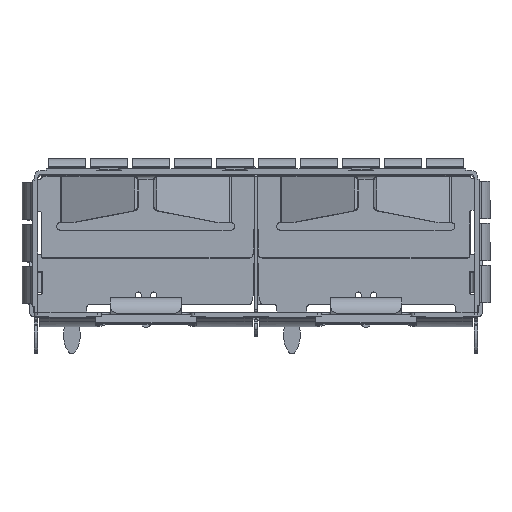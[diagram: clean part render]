
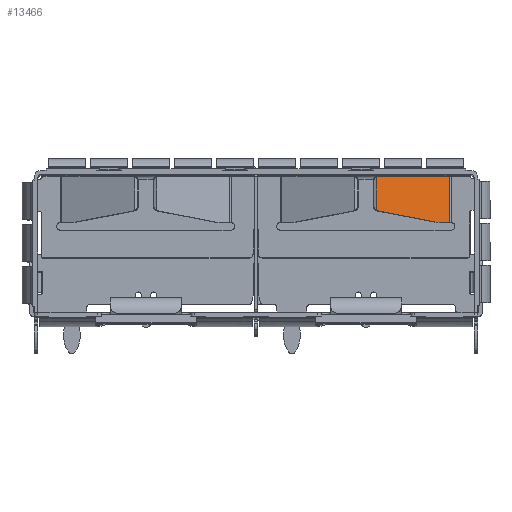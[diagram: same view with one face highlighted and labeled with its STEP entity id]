
A CAD part, top view. The second image highlights one B-rep face of the part: STEP entity #13466.
In plain terms, the highlighted planar face has unit normal (0.375, 0, 0.927) as drawn and (0.375, -0.927, 0) by its records, which use the part's own axes.
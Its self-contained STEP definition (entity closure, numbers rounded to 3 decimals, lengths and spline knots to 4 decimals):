
#1290 = CARTESIAN_POINT ( 'NONE',  ( 11.9804, 47.906, -3.3 ) ) ;
#1608 = AXIS2_PLACEMENT_3D ( 'NONE', #39090, #22542, #51593 ) ;
#1616 = ORIENTED_EDGE ( 'NONE', *, *, #26978, .F. ) ;
#2102 = EDGE_CURVE ( 'NONE', #48046, #51777, #40041, .T. ) ;
#3429 = CARTESIAN_POINT ( 'NONE',  ( 7.8312, 46.2296, -2.5234 ) ) ;
#5209 = ORIENTED_EDGE ( 'NONE', *, *, #14154, .F. ) ;
#5345 = VECTOR ( 'NONE', #18422, 1000. ) ;
#5437 = EDGE_CURVE ( 'NONE', #9344, #49743, #39116, .T. ) ;
#5455 = ORIENTED_EDGE ( 'NONE', *, *, #2102, .F. ) ;
#5796 = CARTESIAN_POINT ( 'NONE',  ( 7.9703, 46.2858, -0.6 ) ) ;
#8752 = EDGE_CURVE ( 'NONE', #51777, #47246, #38665, .T. ) ;
#9153 = CARTESIAN_POINT ( 'NONE',  ( 7.8312, 46.2296, -0.3402 ) ) ;
#9344 = VERTEX_POINT ( 'NONE', #1290 ) ;
#9984 = DIRECTION ( 'NONE',  ( 0.927, 0.375, 0. ) ) ;
#10395 = FACE_OUTER_BOUND ( 'NONE', #16552, .T. ) ;
#13000 = CARTESIAN_POINT ( 'NONE',  ( 11.9804, 47.906, -1.3 ) ) ;
#13033 = ORIENTED_EDGE ( 'NONE', *, *, #5437, .T. ) ;
#13466 = ADVANCED_FACE ( 'NONE', ( #10395 ), #47375, .F. ) ;
#14154 = EDGE_CURVE ( 'NONE', #43288, #18232, #33230, .T. ) ;
#16156 = CARTESIAN_POINT ( 'NONE',  ( 7.922, 46.2663, -2.5591 ) ) ;
#16552 = EDGE_LOOP ( 'NONE', ( #34966, #17026, #5455, #31770, #1616, #13033, #37117, #5209 ) ) ;
#16891 = CARTESIAN_POINT ( 'NONE',  ( 12.5393, 48.1318, -0.3 ) ) ;
#17026 = ORIENTED_EDGE ( 'NONE', *, *, #8752, .F. ) ;
#17253 = DIRECTION ( 'NONE',  ( 0.927, 0.375, 0. ) ) ;
#17508 = LINE ( 'NONE', #26694, #39652 ) ;
#18232 = VERTEX_POINT ( 'NONE', #16891 ) ;
#18297 = CARTESIAN_POINT ( 'NONE',  ( 7.8312, 46.2296, -3.3 ) ) ;
#18422 = DIRECTION ( 'NONE',  ( 0., 0., 1. ) ) ;
#19166 = DIRECTION ( 'NONE',  ( 0.927, 0.375, 0. ) ) ;
#20805 = VECTOR ( 'NONE', #19166, 1000. ) ;
#21771 = LINE ( 'NONE', #50855, #23108 ) ;
#21805 = DIRECTION ( 'NONE',  ( -0.913, -0.369, 0.174 ) ) ;
#22542 = DIRECTION ( 'NONE',  ( -0.375, 0.927, 0. ) ) ;
#23108 = VECTOR ( 'NONE', #21805, 1000. ) ;
#24414 = DIRECTION ( 'NONE',  ( -0.927, -0.375, 0. ) ) ;
#25672 = DIRECTION ( 'NONE',  ( -0.375, 0.927, 0. ) ) ;
#26038 = AXIS2_PLACEMENT_3D ( 'NONE', #5796, #35026, #9984 ) ;
#26389 = CARTESIAN_POINT ( 'NONE',  ( 7.9703, 46.2858, -2.2636 ) ) ;
#26408 = AXIS2_PLACEMENT_3D ( 'NONE', #26389, #25672, #24414 ) ;
#26694 = CARTESIAN_POINT ( 'NONE',  ( 12.5393, 48.1318, -0.3 ) ) ;
#26978 = EDGE_CURVE ( 'NONE', #9344, #34209, #29424, .T. ) ;
#27070 = CARTESIAN_POINT ( 'NONE',  ( 11.6584, 47.7759, -3.2696 ) ) ;
#28441 = CARTESIAN_POINT ( 'NONE',  ( 12.5393, 48.1318, -3.3 ) ) ;
#29401 = VECTOR ( 'NONE', #49142, 1000. ) ;
#29424 = CIRCLE ( 'NONE', #39801, 2. ) ;
#30871 = DIRECTION ( 'NONE',  ( 0., 0., 1. ) ) ;
#31092 = EDGE_CURVE ( 'NONE', #47246, #43288, #37532, .T. ) ;
#31770 = ORIENTED_EDGE ( 'NONE', *, *, #50951, .F. ) ;
#33230 = LINE ( 'NONE', #39915, #20805 ) ;
#34209 = VERTEX_POINT ( 'NONE', #27070 ) ;
#34966 = ORIENTED_EDGE ( 'NONE', *, *, #31092, .F. ) ;
#35026 = DIRECTION ( 'NONE',  ( -0.375, 0.927, 0. ) ) ;
#37071 = EDGE_CURVE ( 'NONE', #49743, #18232, #17508, .T. ) ;
#37117 = ORIENTED_EDGE ( 'NONE', *, *, #37071, .T. ) ;
#37532 = CIRCLE ( 'NONE', #26038, 0.3 ) ;
#38665 = LINE ( 'NONE', #18297, #5345 ) ;
#39090 = CARTESIAN_POINT ( 'NONE',  ( 12.6294, 48.1682, -3.3 ) ) ;
#39116 = LINE ( 'NONE', #49504, #29401 ) ;
#39652 = VECTOR ( 'NONE', #30871, 1000. ) ;
#39801 = AXIS2_PLACEMENT_3D ( 'NONE', #13000, #42118, #17253 ) ;
#39915 = CARTESIAN_POINT ( 'NONE',  ( 12.6294, 48.1682, -0.3 ) ) ;
#40041 = CIRCLE ( 'NONE', #26408, 0.3 ) ;
#42118 = DIRECTION ( 'NONE',  ( -0.375, 0.927, 0. ) ) ;
#42858 = CARTESIAN_POINT ( 'NONE',  ( 7.9703, 46.2858, -0.3 ) ) ;
#43288 = VERTEX_POINT ( 'NONE', #42858 ) ;
#47246 = VERTEX_POINT ( 'NONE', #9153 ) ;
#47375 = PLANE ( 'NONE',  #1608 ) ;
#48046 = VERTEX_POINT ( 'NONE', #16156 ) ;
#49142 = DIRECTION ( 'NONE',  ( 0.927, 0.375, 0. ) ) ;
#49504 = CARTESIAN_POINT ( 'NONE',  ( 11.9804, 47.906, -3.3 ) ) ;
#49743 = VERTEX_POINT ( 'NONE', #28441 ) ;
#50855 = CARTESIAN_POINT ( 'NONE',  ( 11.6584, 47.7759, -3.2696 ) ) ;
#50951 = EDGE_CURVE ( 'NONE', #34209, #48046, #21771, .T. ) ;
#51593 = DIRECTION ( 'NONE',  ( 0.927, 0.375, 0. ) ) ;
#51777 = VERTEX_POINT ( 'NONE', #3429 ) ;
